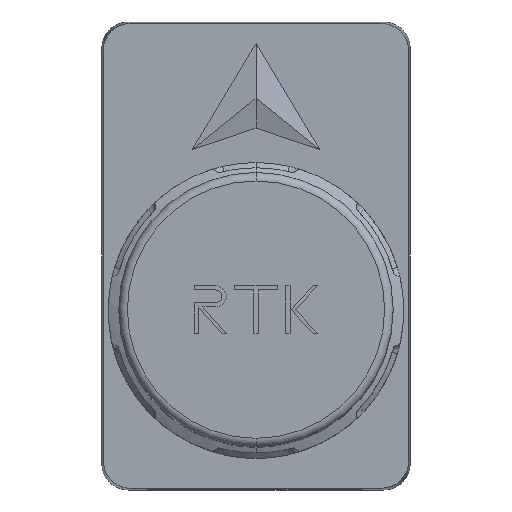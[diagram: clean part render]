
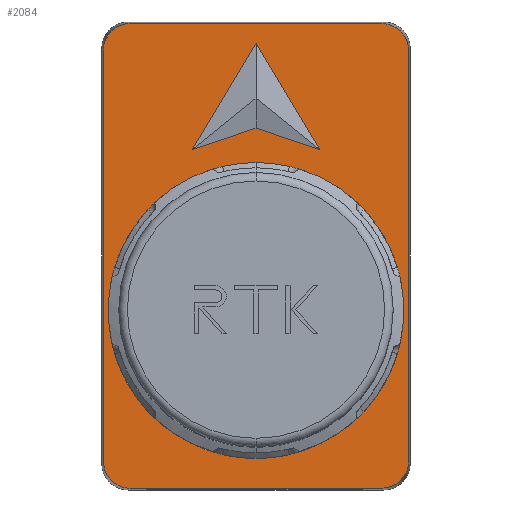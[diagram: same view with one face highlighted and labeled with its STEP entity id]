
A CAD part, top view. The second image highlights one B-rep face of the part: STEP entity #2084.
In plain terms, the highlighted planar face has unit normal (0, 0, 1).
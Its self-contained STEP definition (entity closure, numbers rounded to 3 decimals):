
#104 = ORIENTED_EDGE ( 'NONE', *, *, #26507, .T. ) ;
#311 = ORIENTED_EDGE ( 'NONE', *, *, #14137, .F. ) ;
#546 = VERTEX_POINT ( 'NONE', #3713 ) ;
#1035 = DIRECTION ( 'NONE',  ( 0., -1., 0. ) ) ;
#1578 =( BOUNDED_CURVE ( )  B_SPLINE_CURVE ( 3, ( #8355, #28290, #17132, #28149 ),
 .UNSPECIFIED., .F., .F. ) 
 B_SPLINE_CURVE_WITH_KNOTS ( ( 4, 4 ),
 ( 5.498, 7.068 ),
 .UNSPECIFIED. ) 
 CURVE ( )  GEOMETRIC_REPRESENTATION_ITEM ( )  RATIONAL_B_SPLINE_CURVE ( ( 1., 0.805, 0.805, 1. ) ) 
 REPRESENTATION_ITEM ( '' )  );
#1618 = CARTESIAN_POINT ( 'NONE',  ( 0., 19., 25.75 ) ) ;
#1822 = DIRECTION ( 'NONE',  ( 0., 0., 1. ) ) ;
#1842 = LINE ( 'NONE', #15078, #20498 ) ;
#2084 = ADVANCED_FACE ( 'NONE', ( #9794, #12559, #27597 ), #10227, .F. ) ;
#2523 = EDGE_CURVE ( 'NONE', #14940, #18623, #24091, .T. ) ;
#2694 = LINE ( 'NONE', #6863, #9094 ) ;
#2734 = EDGE_LOOP ( 'NONE', ( #10093, #22433 ) ) ;
#3087 = VERTEX_POINT ( 'NONE', #23254 ) ;
#3339 = DIRECTION ( 'NONE',  ( 0., 0., -1. ) ) ;
#3429 = CARTESIAN_POINT ( 'NONE',  ( 14.336, 39.801, 25.75 ) ) ;
#3528 = VERTEX_POINT ( 'NONE', #16090 ) ;
#3713 = CARTESIAN_POINT ( 'NONE',  ( 6., 29., 25.75 ) ) ;
#4336 = DIRECTION ( 'NONE',  ( 0., -1., 0. ) ) ;
#4692 = VECTOR ( 'NONE', #23305, 1000. ) ;
#5306 = CARTESIAN_POINT ( 'NONE',  ( -11.837, -2.836, 25.75 ) ) ;
#5329 = EDGE_CURVE ( 'NONE', #14826, #15503, #26643, .T. ) ;
#5433 =( BOUNDED_CURVE ( )  B_SPLINE_CURVE ( 3, ( #11649, #16373, #26993, #5306 ),
 .UNSPECIFIED., .F., .F. ) 
 B_SPLINE_CURVE_WITH_KNOTS ( ( 4, 4 ),
 ( 5.498, 7.068 ),
 .UNSPECIFIED. ) 
 CURVE ( )  GEOMETRIC_REPRESENTATION_ITEM ( )  RATIONAL_B_SPLINE_CURVE ( ( 1., 0.805, 0.805, 1. ) ) 
 REPRESENTATION_ITEM ( '' )  );
#5494 = ORIENTED_EDGE ( 'NONE', *, *, #6473, .T. ) ;
#5863 = ORIENTED_EDGE ( 'NONE', *, *, #26276, .T. ) ;
#6050 = VERTEX_POINT ( 'NONE', #6057 ) ;
#6057 = CARTESIAN_POINT ( 'NONE',  ( 11.837, 40.836, 25.75 ) ) ;
#6228 = EDGE_LOOP ( 'NONE', ( #20240, #26847, #23405, #104, #5494, #10770, #5863, #13462 ) ) ;
#6473 = EDGE_CURVE ( 'NONE', #6050, #14940, #9580, .T. ) ;
#6507 = VERTEX_POINT ( 'NONE', #18367 ) ;
#6863 = CARTESIAN_POINT ( 'NONE',  ( 0., -2.836, 25.75 ) ) ;
#6915 = CARTESIAN_POINT ( 'NONE',  ( 14.336, -0.337, 25.75 ) ) ;
#7192 = CIRCLE ( 'NONE', #10877, 10. ) ;
#7473 = CARTESIAN_POINT ( 'NONE',  ( -14.336, 39.801, 25.75 ) ) ;
#7856 = DIRECTION ( 'NONE',  ( 0.949, -0.316, 0. ) ) ;
#7909 = EDGE_CURVE ( 'NONE', #3087, #8565, #5433, .T. ) ;
#8355 = CARTESIAN_POINT ( 'NONE',  ( 11.837, -2.836, 25.75 ) ) ;
#8565 = VERTEX_POINT ( 'NONE', #14268 ) ;
#8627 = DIRECTION ( 'NONE',  ( 0.949, 0.316, 0. ) ) ;
#9094 = VECTOR ( 'NONE', #20263, 1000. ) ;
#9431 = CARTESIAN_POINT ( 'NONE',  ( 0., 39., 25.75 ) ) ;
#9580 = LINE ( 'NONE', #16484, #4692 ) ;
#9631 = CARTESIAN_POINT ( 'NONE',  ( -13.301, 40.836, 25.75 ) ) ;
#9709 = EDGE_CURVE ( 'NONE', #6507, #27389, #26283, .T. ) ;
#9794 = FACE_BOUND ( 'NONE', #2734, .T. ) ;
#10077 = EDGE_CURVE ( 'NONE', #546, #23601, #11340, .T. ) ;
#10093 = ORIENTED_EDGE ( 'NONE', *, *, #11438, .F. ) ;
#10227 = PLANE ( 'NONE',  #23462 ) ;
#10686 = DIRECTION ( 'NONE',  ( 0., 1., 0. ) ) ;
#10770 = ORIENTED_EDGE ( 'NONE', *, *, #2523, .T. ) ;
#10877 = AXIS2_PLACEMENT_3D ( 'NONE', #12865, #19186, #10686 ) ;
#10884 = DIRECTION ( 'NONE',  ( 0., 1., 0. ) ) ;
#10970 = EDGE_CURVE ( 'NONE', #3528, #14826, #1578, .T. ) ;
#11340 = LINE ( 'NONE', #9431, #23179 ) ;
#11438 = EDGE_CURVE ( 'NONE', #16651, #26795, #12348, .T. ) ;
#11649 = CARTESIAN_POINT ( 'NONE',  ( -14.336, -0.337, 25.75 ) ) ;
#12348 = CIRCLE ( 'NONE', #22945, 10. ) ;
#12559 = FACE_OUTER_BOUND ( 'NONE', #6228, .T. ) ;
#12774 = LINE ( 'NONE', #25815, #16024 ) ;
#12865 = CARTESIAN_POINT ( 'NONE',  ( 0., 13.85, 25.75 ) ) ;
#13033 = CARTESIAN_POINT ( 'NONE',  ( 14.336, 19., 25.75 ) ) ;
#13116 = LINE ( 'NONE', #22200, #26453 ) ;
#13195 = CARTESIAN_POINT ( 'NONE',  ( 0., 13.85, 25.75 ) ) ;
#13462 = ORIENTED_EDGE ( 'NONE', *, *, #7909, .T. ) ;
#14137 = EDGE_CURVE ( 'NONE', #27389, #546, #12774, .T. ) ;
#14268 = CARTESIAN_POINT ( 'NONE',  ( -11.837, -2.836, 25.75 ) ) ;
#14826 = VERTEX_POINT ( 'NONE', #6915 ) ;
#14940 = VERTEX_POINT ( 'NONE', #27546 ) ;
#14947 = CARTESIAN_POINT ( 'NONE',  ( -14.336, 38.337, 25.75 ) ) ;
#15078 = CARTESIAN_POINT ( 'NONE',  ( 0., 39., 25.75 ) ) ;
#15503 = VERTEX_POINT ( 'NONE', #15731 ) ;
#15731 = CARTESIAN_POINT ( 'NONE',  ( 14.336, 38.337, 25.75 ) ) ;
#15808 = CARTESIAN_POINT ( 'NONE',  ( 0., 3.85, 25.75 ) ) ;
#16024 = VECTOR ( 'NONE', #7856, 1000. ) ;
#16090 = CARTESIAN_POINT ( 'NONE',  ( 11.837, -2.836, 25.75 ) ) ;
#16345 = ORIENTED_EDGE ( 'NONE', *, *, #10077, .F. ) ;
#16373 = CARTESIAN_POINT ( 'NONE',  ( -14.336, -1.801, 25.75 ) ) ;
#16484 = CARTESIAN_POINT ( 'NONE',  ( 0., 40.836, 25.75 ) ) ;
#16644 = CARTESIAN_POINT ( 'NONE',  ( 14.336, 38.337, 25.75 ) ) ;
#16651 = VERTEX_POINT ( 'NONE', #15808 ) ;
#17132 = CARTESIAN_POINT ( 'NONE',  ( 14.336, -1.801, 25.75 ) ) ;
#17482 = DIRECTION ( 'NONE',  ( 0., 1., 0. ) ) ;
#18228 = DIRECTION ( 'NONE',  ( -0.514, 0.857, 0. ) ) ;
#18367 = CARTESIAN_POINT ( 'NONE',  ( -6., 29., 25.75 ) ) ;
#18373 = CARTESIAN_POINT ( 'NONE',  ( 0., 31., 25.75 ) ) ;
#18623 = VERTEX_POINT ( 'NONE', #14947 ) ;
#18958 = CARTESIAN_POINT ( 'NONE',  ( 11.837, 40.836, 25.75 ) ) ;
#19175 = CARTESIAN_POINT ( 'NONE',  ( 0., 39., 25.75 ) ) ;
#19186 = DIRECTION ( 'NONE',  ( 0., 0., 1. ) ) ;
#19479 = CARTESIAN_POINT ( 'NONE',  ( 0., 23.85, 25.75 ) ) ;
#20240 = ORIENTED_EDGE ( 'NONE', *, *, #24058, .T. ) ;
#20263 = DIRECTION ( 'NONE',  ( 1., 0., 0. ) ) ;
#20498 = VECTOR ( 'NONE', #23923, 1000. ) ;
#20890 = CARTESIAN_POINT ( 'NONE',  ( -11.837, 40.836, 25.75 ) ) ;
#21761 = VECTOR ( 'NONE', #17482, 1000. ) ;
#22200 = CARTESIAN_POINT ( 'NONE',  ( -14.336, 19., 25.75 ) ) ;
#22433 = ORIENTED_EDGE ( 'NONE', *, *, #25784, .F. ) ;
#22945 = AXIS2_PLACEMENT_3D ( 'NONE', #13195, #1822, #10884 ) ;
#23179 = VECTOR ( 'NONE', #18228, 1000. ) ;
#23254 = CARTESIAN_POINT ( 'NONE',  ( -14.336, -0.337, 25.75 ) ) ;
#23305 = DIRECTION ( 'NONE',  ( -1., 0., 0. ) ) ;
#23405 = ORIENTED_EDGE ( 'NONE', *, *, #5329, .T. ) ;
#23462 = AXIS2_PLACEMENT_3D ( 'NONE', #1618, #3339, #1035 ) ;
#23601 = VERTEX_POINT ( 'NONE', #19175 ) ;
#23669 = VECTOR ( 'NONE', #8627, 1000. ) ;
#23780 = CARTESIAN_POINT ( 'NONE',  ( 13.301, 40.836, 25.75 ) ) ;
#23923 = DIRECTION ( 'NONE',  ( -0.514, -0.857, 0. ) ) ;
#24058 = EDGE_CURVE ( 'NONE', #8565, #3528, #2694, .T. ) ;
#24091 =( BOUNDED_CURVE ( )  B_SPLINE_CURVE ( 3, ( #20890, #9631, #7473, #25124 ),
 .UNSPECIFIED., .F., .F. ) 
 B_SPLINE_CURVE_WITH_KNOTS ( ( 4, 4 ),
 ( 5.498, 7.068 ),
 .UNSPECIFIED. ) 
 CURVE ( )  GEOMETRIC_REPRESENTATION_ITEM ( )  RATIONAL_B_SPLINE_CURVE ( ( 1., 0.805, 0.805, 1. ) ) 
 REPRESENTATION_ITEM ( '' )  );
#25124 = CARTESIAN_POINT ( 'NONE',  ( -14.336, 38.337, 25.75 ) ) ;
#25181 =( BOUNDED_CURVE ( )  B_SPLINE_CURVE ( 3, ( #16644, #3429, #23780, #18958 ),
 .UNSPECIFIED., .F., .F. ) 
 B_SPLINE_CURVE_WITH_KNOTS ( ( 4, 4 ),
 ( 5.498, 7.068 ),
 .UNSPECIFIED. ) 
 CURVE ( )  GEOMETRIC_REPRESENTATION_ITEM ( )  RATIONAL_B_SPLINE_CURVE ( ( 1., 0.805, 0.805, 1. ) ) 
 REPRESENTATION_ITEM ( '' )  );
#25784 = EDGE_CURVE ( 'NONE', #26795, #16651, #7192, .T. ) ;
#25815 = CARTESIAN_POINT ( 'NONE',  ( 6., 29., 25.75 ) ) ;
#26145 = CARTESIAN_POINT ( 'NONE',  ( -6., 29., 25.75 ) ) ;
#26276 = EDGE_CURVE ( 'NONE', #18623, #3087, #13116, .T. ) ;
#26283 = LINE ( 'NONE', #26145, #23669 ) ;
#26330 = ORIENTED_EDGE ( 'NONE', *, *, #28259, .F. ) ;
#26453 = VECTOR ( 'NONE', #4336, 1000. ) ;
#26507 = EDGE_CURVE ( 'NONE', #15503, #6050, #25181, .T. ) ;
#26620 = EDGE_LOOP ( 'NONE', ( #16345, #311, #27757, #26330 ) ) ;
#26643 = LINE ( 'NONE', #13033, #21761 ) ;
#26795 = VERTEX_POINT ( 'NONE', #19479 ) ;
#26847 = ORIENTED_EDGE ( 'NONE', *, *, #10970, .T. ) ;
#26993 = CARTESIAN_POINT ( 'NONE',  ( -13.301, -2.836, 25.75 ) ) ;
#27389 = VERTEX_POINT ( 'NONE', #18373 ) ;
#27546 = CARTESIAN_POINT ( 'NONE',  ( -11.837, 40.836, 25.75 ) ) ;
#27597 = FACE_BOUND ( 'NONE', #26620, .T. ) ;
#27757 = ORIENTED_EDGE ( 'NONE', *, *, #9709, .F. ) ;
#28149 = CARTESIAN_POINT ( 'NONE',  ( 14.336, -0.337, 25.75 ) ) ;
#28259 = EDGE_CURVE ( 'NONE', #23601, #6507, #1842, .T. ) ;
#28290 = CARTESIAN_POINT ( 'NONE',  ( 13.301, -2.836, 25.75 ) ) ;
